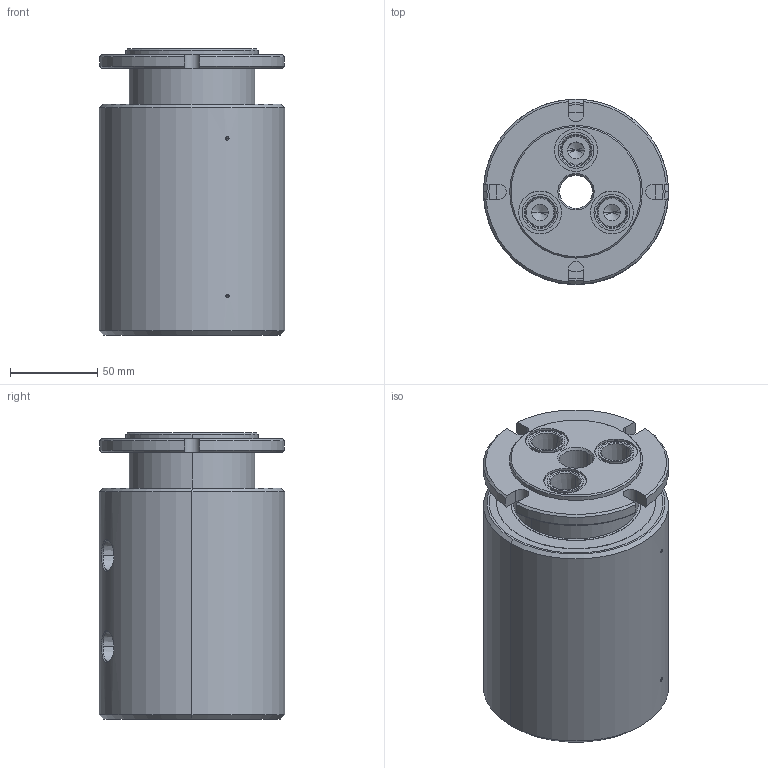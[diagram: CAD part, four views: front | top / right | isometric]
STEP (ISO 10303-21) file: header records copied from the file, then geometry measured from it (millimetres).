
FILE_DESCRIPTION (( 'STEP AP214' ), '1' );
FILE_NAME ('GP(M)-331.STEP', '2013-02-05T22:54:33', ( '' ), ( '' ), 'SwSTEP 2.0', 'SolidWorks 2011', '' );
FILE_SCHEMA (( 'AUTOMOTIVE_DESIGN' ));
Length unit declared in the file: inch
Products named in the file (1): GP(M)-331
Bounding box: 106.35 x 106.35 x 164.26 mm (x, y, z)
Volume: 1229365.5 mm3; surface area: 100842.7 mm2
Topology: 1 solids, 1 shells, 203 faces, 478 edges, 287 vertices
Faces by surface type: cylinder 87, cone 68, plane 40, bspline 6, torus 2
Entity records: 6870 total; most frequent: CARTESIAN_POINT 1891, DIRECTION 1020, ORIENTED_EDGE 896, EDGE_CURVE 448, AXIS2_PLACEMENT_3D 418, VERTEX_POINT 287, EDGE_LOOP 245, CIRCLE 220
